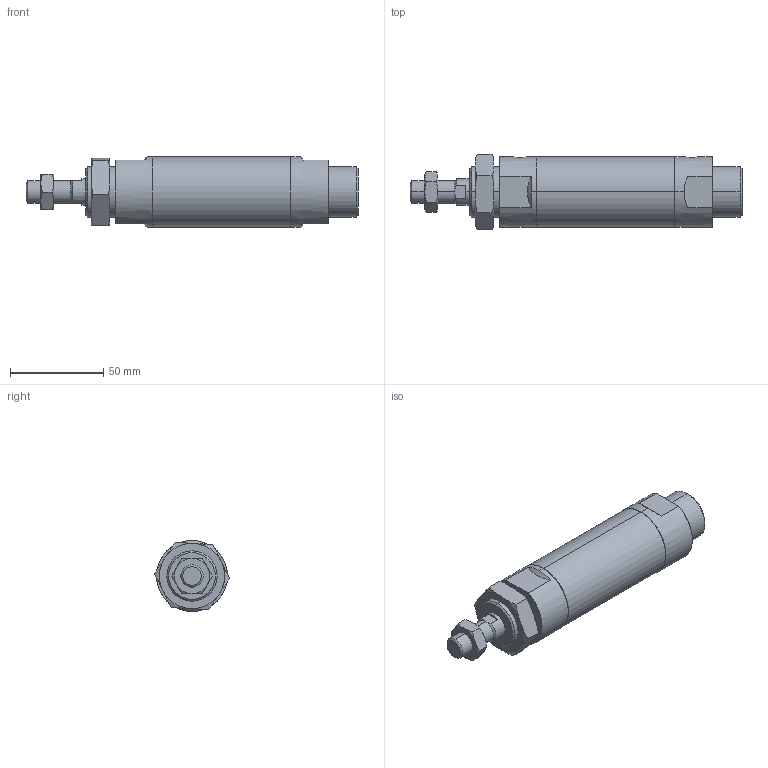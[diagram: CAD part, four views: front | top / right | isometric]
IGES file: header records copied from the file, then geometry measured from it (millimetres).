
Start section: SolidWorks IGES file using analytic representation for surfaces
Global section: file name: C:\Users\Toshiba\Desktop\J#2-32-25-N.IGS; native system: SolidWorks 2014; preprocessor: SolidWorks 2014; author: Toshiba; date: 160308.153057; units: millimetre
Bounding box: 178 x 40.33 x 38 mm (x, y, z)
Surface area: 24975.3 mm2 (no closed solid volume)
Topology: 0 solids, 0 shells, 94 faces, 1652 edges, 1648 vertices
Faces by surface type: bspline 57, revolution 37
